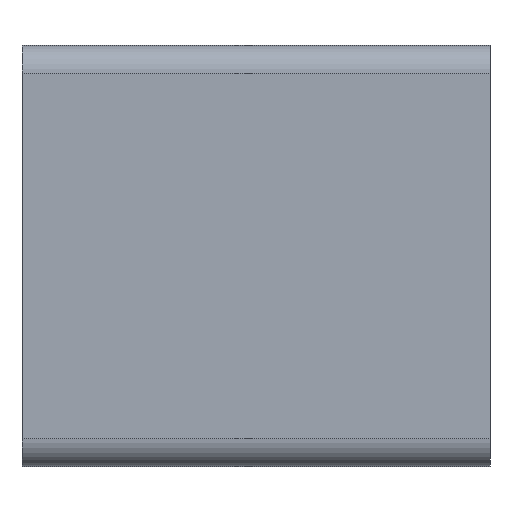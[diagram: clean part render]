
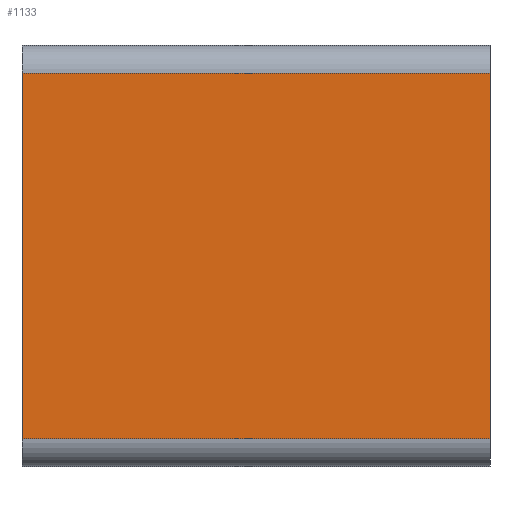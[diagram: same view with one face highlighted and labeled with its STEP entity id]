
A CAD part, front view. The second image highlights one B-rep face of the part: STEP entity #1133.
In plain terms, the highlighted planar face has unit normal (0, -1, 0).
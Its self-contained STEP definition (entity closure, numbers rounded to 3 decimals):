
#825=VERTEX_POINT('',#2338);
#889=EDGE_CURVE('',#825,#1057,#2407,.T.);
#891=VERTEX_POINT('',#2409);
#1033=EDGE_CURVE('',#891,#1641,#2561,.T.);
#1035=EDGE_CURVE('',#1641,#1057,#2563,.T.);
#1057=VERTEX_POINT('',#2586);
#1101=EDGE_CURVE('',#825,#891,#2635,.T.);
#1133=ADVANCED_FACE('',(#2672),#2673,.T.);
#1641=VERTEX_POINT('',#3222);
#2338=CARTESIAN_POINT('',(0.0,-22.5,19.5));
#2407=LINE('',#4093,#4094);
#2409=CARTESIAN_POINT('',(0.0,-22.5,-19.5));
#2561=LINE('',#4310,#4311);
#2563=LINE('',#4314,#4315);
#2586=CARTESIAN_POINT('',(50.0,-22.5,19.5));
#2635=LINE('',#4417,#4418);
#2672=FACE_OUTER_BOUND('',#4466,.T.);
#2673=PLANE('',#4467);
#3222=CARTESIAN_POINT('',(50.0,-22.5,-19.5));
#4093=CARTESIAN_POINT('',(0.0,-22.5,19.5));
#4094=VECTOR('',#6346,1.0);
#4310=CARTESIAN_POINT('',(0.0,-22.5,-19.5));
#4311=VECTOR('',#6465,1.0);
#4314=CARTESIAN_POINT('',(50.0,-22.5,19.5));
#4315=VECTOR('',#6466,1.0);
#4417=CARTESIAN_POINT('',(0.0,-22.5,19.5));
#4418=VECTOR('',#6537,1.0);
#4466=EDGE_LOOP('',(#6587,#6588,#6589,#6590));
#4467=AXIS2_PLACEMENT_3D('',#6591,#6592,#6593);
#6346=DIRECTION('',(1.0,0.0,0.0));
#6465=DIRECTION('',(1.0,0.0,0.0));
#6466=DIRECTION('',(-0.0,0.0,1.0));
#6537=DIRECTION('',(0.0,0.0,-1.0));
#6587=ORIENTED_EDGE('',*,*,#1035,.T.);
#6588=ORIENTED_EDGE('',*,*,#889,.F.);
#6589=ORIENTED_EDGE('',*,*,#1101,.T.);
#6590=ORIENTED_EDGE('',*,*,#1033,.T.);
#6591=CARTESIAN_POINT('',(0.0,-22.5,-19.5));
#6592=DIRECTION('',(0.0,-1.0,0.0));
#6593=DIRECTION('',(0.0,0.0,-1.0));
